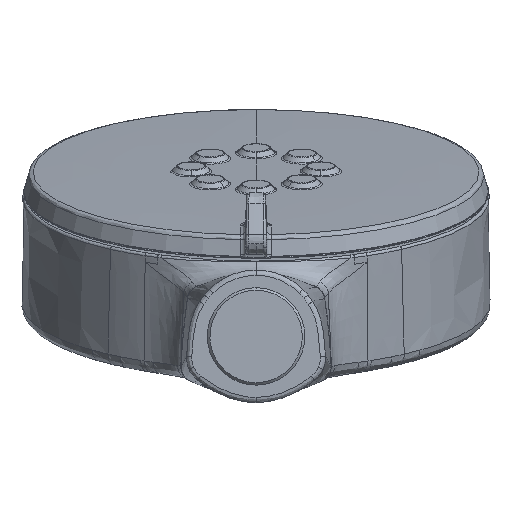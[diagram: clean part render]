
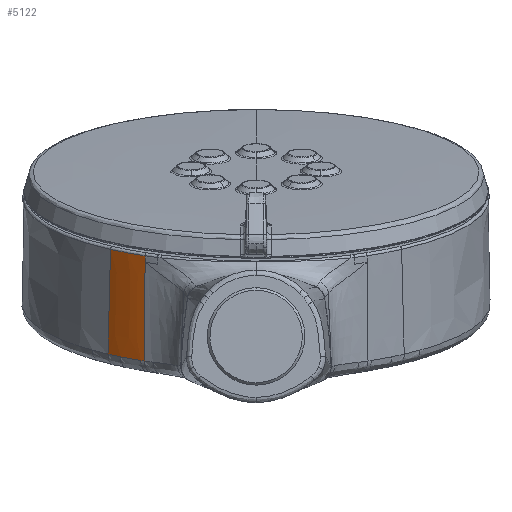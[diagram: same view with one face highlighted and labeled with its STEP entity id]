
A CAD part, front view. The second image highlights one B-rep face of the part: STEP entity #5122.
In plain terms, the highlighted free-form (B-spline) face has degree [5, 5] with [6, 6] control points.
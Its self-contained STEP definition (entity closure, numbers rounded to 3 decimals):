
#128 = CARTESIAN_POINT ( 'NONE',  ( -25.983, 3.845, 16.308 ) ) ;
#249 = CARTESIAN_POINT ( 'NONE',  ( -21.402, 1.208, 15.536 ) ) ;
#807 = CARTESIAN_POINT ( 'NONE',  ( -26.848, 4.37, 16.978 ) ) ;
#1044 = CARTESIAN_POINT ( 'NONE',  ( -22.833, 3.107, 11.639 ) ) ;
#1052 = CARTESIAN_POINT ( 'NONE',  ( -21.735, 7.098, -4.706 ) ) ;
#1120 = CARTESIAN_POINT ( 'NONE',  ( -28.343, 8.113, 8.07 ) ) ;
#1322 = VERTEX_POINT ( 'NONE', #12709 ) ;
#1375 = CARTESIAN_POINT ( 'NONE',  ( -28.566, 10.879, -1.123 ) ) ;
#1385 = CARTESIAN_POINT ( 'NONE',  ( -21.976, 7.227, -4.67 ) ) ;
#1972 = EDGE_CURVE ( 'NONE', #1322, #21963, #5904, .T. ) ;
#2928 = CARTESIAN_POINT ( 'NONE',  ( -24.358, 5.285, 7.278 ) ) ;
#3002 = CARTESIAN_POINT ( 'NONE',  ( -21.371, 3.635, 6.86 ) ) ;
#3080 = CARTESIAN_POINT ( 'NONE',  ( -21.389, 4.933, 2.288 ) ) ;
#3088 = CARTESIAN_POINT ( 'NONE',  ( -22.214, 7.356, -4.634 ) ) ;
#3157 = CARTESIAN_POINT ( 'NONE',  ( -27.433, 11.282, -6.007 ) ) ;
#3323 = CARTESIAN_POINT ( 'NONE',  ( -24.745, 8.802, -4.227 ) ) ;
#3867 = VECTOR ( 'NONE', #18218, 1000. ) ;
#3914 = B_SPLINE_CURVE_WITH_KNOTS ( 'NONE', 3,
 ( #8827, #22008, #19944, #21841 ),
 .UNSPECIFIED., .F., .F.,
 ( 4, 4 ),
 ( 0., 1. ),
 .UNSPECIFIED. ) ;
#4567 = CARTESIAN_POINT ( 'NONE',  ( -27.199, 8.517, 3.187 ) ) ;
#4798 = CARTESIAN_POINT ( 'NONE',  ( -21.353, 2.337, 11.432 ) ) ;
#4921 = VERTEX_POINT ( 'NONE', #9135 ) ;
#5122 = ADVANCED_FACE ( 'NONE', ( #5366 ), #14325, .T. ) ;
#5279 = CARTESIAN_POINT ( 'NONE',  ( -28.678, 12.262, -5.719 ) ) ;
#5357 = CARTESIAN_POINT ( 'NONE',  ( -23.409, 8.005, -4.45 ) ) ;
#5366 = FACE_OUTER_BOUND ( 'NONE', #21884, .T. ) ;
#5904 = LINE ( 'NONE', #6753, #3867 ) ;
#6753 = CARTESIAN_POINT ( 'NONE',  ( -21.408, 1.565, 14.28 ) ) ;
#7011 = CARTESIAN_POINT ( 'NONE',  ( -22.214, 7.356, -4.634 ) ) ;
#7188 = CARTESIAN_POINT ( 'NONE',  ( -23.087, 8.412, -6.684 ) ) ;
#8359 = CARTESIAN_POINT ( 'NONE',  ( -22.897, 4.433, 7.058 ) ) ;
#8598 = CARTESIAN_POINT ( 'NONE',  ( -24.168, 2.584, 16.455 ) ) ;
#8628 = EDGE_CURVE ( 'NONE', #24016, #21963, #20996, .T. ) ;
#8677 = CARTESIAN_POINT ( 'NONE',  ( -28.314, 8.478, 6.683 ) ) ;
#8680 = CARTESIAN_POINT ( 'NONE',  ( -27.082, 7.135, 7.784 ) ) ;
#8827 = CARTESIAN_POINT ( 'NONE',  ( -28.56, 11.515, -3.41 ) ) ;
#8849 = CARTESIAN_POINT ( 'NONE',  ( -24.547, 7.987, -1.898 ) ) ;
#9112 = EDGE_CURVE ( 'NONE', #20145, #24016, #15715, .T. ) ;
#9135 = CARTESIAN_POINT ( 'NONE',  ( -21.491, 6.971, -4.741 ) ) ;
#9388 = B_SPLINE_CURVE_WITH_KNOTS ( 'NONE', 3,
 ( #3088, #1385, #1052, #12483 ),
 .UNSPECIFIED., .F., .F.,
 ( 4, 4 ),
 ( 0., 1. ),
 .UNSPECIFIED. ) ;
#9837 = EDGE_CURVE ( 'NONE', #21419, #17318, #10146, .T. ) ;
#9958 = EDGE_CURVE ( 'NONE', #4921, #1322, #11863, .T. ) ;
#10099 = VECTOR ( 'NONE', #15521, 1000. ) ;
#10146 = B_SPLINE_CURVE_WITH_KNOTS ( 'NONE', 3,
 ( #12886, #3323, #5357, #7011 ),
 .UNSPECIFIED., .F., .F.,
 ( 4, 4 ),
 ( 0., 1. ),
 .UNSPECIFIED. ) ;
#10217 = ORIENTED_EDGE ( 'NONE', *, *, #9837, .T. ) ;
#10243 = EDGE_CURVE ( 'NONE', #20145, #21419, #3914, .T. ) ;
#10277 = CARTESIAN_POINT ( 'NONE',  ( -22.77, 1.78, 16.22 ) ) ;
#10435 = CARTESIAN_POINT ( 'NONE',  ( -26.965, 5.752, 12.381 ) ) ;
#10678 = EDGE_CURVE ( 'NONE', #17318, #4921, #9388, .T. ) ;
#10935 = CARTESIAN_POINT ( 'NONE',  ( -26.087, 10.307, -6.263 ) ) ;
#11863 = LINE ( 'NONE', #23915, #10099 ) ;
#12170 = CARTESIAN_POINT ( 'NONE',  ( -24.452, 6.636, 2.69 ) ) ;
#12251 = CARTESIAN_POINT ( 'NONE',  ( -21.335, 1.039, 16.003 ) ) ;
#12483 = CARTESIAN_POINT ( 'NONE',  ( -21.491, 6.971, -4.741 ) ) ;
#12709 = CARTESIAN_POINT ( 'NONE',  ( -21.408, 1.565, 14.28 ) ) ;
#12719 = CARTESIAN_POINT ( 'NONE',  ( -25.976, 8.936, -1.669 ) ) ;
#12886 = CARTESIAN_POINT ( 'NONE',  ( -26.145, 9.754, -3.939 ) ) ;
#13342 = CARTESIAN_POINT ( 'NONE',  ( -23.749, 2.426, 15.893 ) ) ;
#13968 = CARTESIAN_POINT ( 'NONE',  ( -28.231, 6.73, 12.667 ) ) ;
#14325 = B_SPLINE_SURFACE_WITH_KNOTS ( 'NONE', 5, 5, ( 
 ( #23518, #807, #19888, #8598, #10277, #12251 ),
 ( #13968, #10435, #16107, #23595, #1044, #4798 ),
 ( #1120, #8680, #17988, #2928, #8359, #3002 ),
 ( #15873, #4567, #17743, #12170, #14712, #3080 ),
 ( #1375, #22281, #12719, #8849, #16271, #22191 ),
 ( #5279, #3157, #10935, #18494, #7188, #14370 ) ),
 .UNSPECIFIED., .F., .F., .F.,
 ( 6, 6 ),
 ( 6, 6 ),
 ( 0., 1. ),
 ( 0., 1. ),
 .UNSPECIFIED. ) ;
#14370 = CARTESIAN_POINT ( 'NONE',  ( -21.424, 7.53, -6.855 ) ) ;
#14712 = CARTESIAN_POINT ( 'NONE',  ( -22.96, 5.76, 2.478 ) ) ;
#14901 = ORIENTED_EDGE ( 'NONE', *, *, #10678, .T. ) ;
#15165 = ORIENTED_EDGE ( 'NONE', *, *, #1972, .T. ) ;
#15521 = DIRECTION ( 'NONE',  ( 0.004, -0.273, 0.962 ) ) ;
#15715 = LINE ( 'NONE', #8677, #19536 ) ;
#15873 = CARTESIAN_POINT ( 'NONE',  ( -28.454, 9.496, 3.474 ) ) ;
#16107 = CARTESIAN_POINT ( 'NONE',  ( -25.642, 4.821, 12.114 ) ) ;
#16271 = CARTESIAN_POINT ( 'NONE',  ( -23.024, 7.086, -2.103 ) ) ;
#16445 = ORIENTED_EDGE ( 'NONE', *, *, #9112, .F. ) ;
#16986 = CARTESIAN_POINT ( 'NONE',  ( -21.402, 1.208, 15.536 ) ) ;
#17318 = VERTEX_POINT ( 'NONE', #20343 ) ;
#17320 = CARTESIAN_POINT ( 'NONE',  ( -28.068, 5.442, 16.775 ) ) ;
#17743 = CARTESIAN_POINT ( 'NONE',  ( -25.865, 7.564, 2.925 ) ) ;
#17988 = CARTESIAN_POINT ( 'NONE',  ( -25.753, 6.192, 7.52 ) ) ;
#18218 = DIRECTION ( 'NONE',  ( 0.004, -0.273, 0.962 ) ) ;
#18328 = CARTESIAN_POINT ( 'NONE',  ( -28.56, 11.515, -3.41 ) ) ;
#18494 = CARTESIAN_POINT ( 'NONE',  ( -24.642, 9.338, -6.487 ) ) ;
#19536 = VECTOR ( 'NONE', #22186, 1000. ) ;
#19888 = CARTESIAN_POINT ( 'NONE',  ( -25.531, 3.449, 16.708 ) ) ;
#19944 = CARTESIAN_POINT ( 'NONE',  ( -27.014, 10.345, -3.76 ) ) ;
#20107 = ORIENTED_EDGE ( 'NONE', *, *, #8628, .F. ) ;
#20145 = VERTEX_POINT ( 'NONE', #18328 ) ;
#20343 = CARTESIAN_POINT ( 'NONE',  ( -22.214, 7.356, -4.634 ) ) ;
#20679 = CARTESIAN_POINT ( 'NONE',  ( -28.068, 5.442, 16.775 ) ) ;
#20996 = B_SPLINE_CURVE_WITH_KNOTS ( 'NONE', 3,
 ( #20679, #128, #13342, #16986 ),
 .UNSPECIFIED., .F., .F.,
 ( 4, 4 ),
 ( 0., 1. ),
 .UNSPECIFIED. ) ;
#21419 = VERTEX_POINT ( 'NONE', #21488 ) ;
#21488 = CARTESIAN_POINT ( 'NONE',  ( -26.145, 9.754, -3.939 ) ) ;
#21841 = CARTESIAN_POINT ( 'NONE',  ( -26.145, 9.754, -3.939 ) ) ;
#21884 = EDGE_LOOP ( 'NONE', ( #16445, #23726, #10217, #14901, #23842, #15165, #20107 ) ) ;
#21963 = VERTEX_POINT ( 'NONE', #249 ) ;
#22008 = CARTESIAN_POINT ( 'NONE',  ( -27.816, 10.933, -3.583 ) ) ;
#22186 = DIRECTION ( 'NONE',  ( 0.023, -0.288, 0.957 ) ) ;
#22191 = CARTESIAN_POINT ( 'NONE',  ( -21.407, 6.231, -2.283 ) ) ;
#22281 = CARTESIAN_POINT ( 'NONE',  ( -27.316, 9.899, -1.41 ) ) ;
#23518 = CARTESIAN_POINT ( 'NONE',  ( -28.119, 5.347, 17.264 ) ) ;
#23595 = CARTESIAN_POINT ( 'NONE',  ( -24.263, 3.934, 11.867 ) ) ;
#23726 = ORIENTED_EDGE ( 'NONE', *, *, #10243, .T. ) ;
#23842 = ORIENTED_EDGE ( 'NONE', *, *, #9958, .T. ) ;
#23915 = CARTESIAN_POINT ( 'NONE',  ( -21.491, 6.971, -4.741 ) ) ;
#24016 = VERTEX_POINT ( 'NONE', #17320 ) ;
